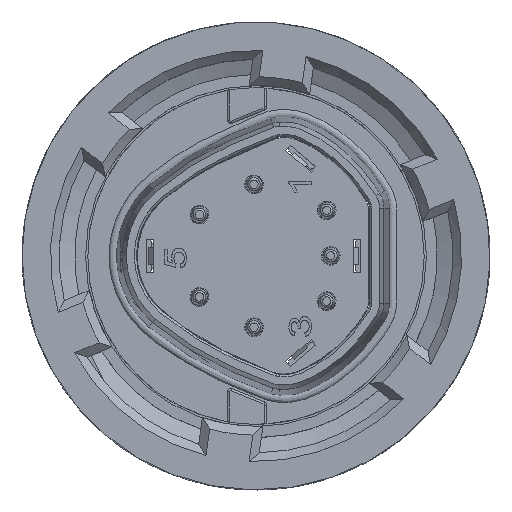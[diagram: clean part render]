
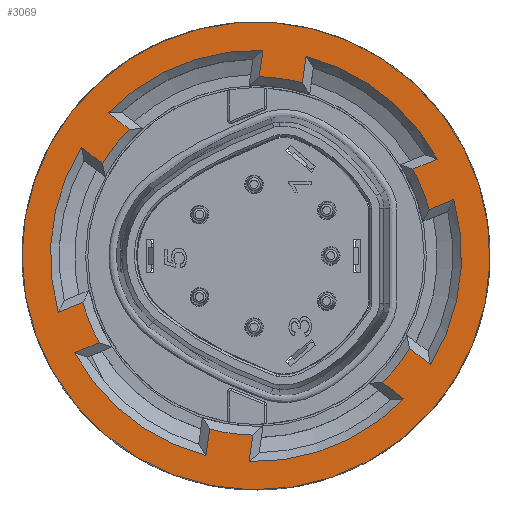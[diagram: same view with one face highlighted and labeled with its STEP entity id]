
A CAD part, top view. The second image highlights one B-rep face of the part: STEP entity #3069.
In plain terms, the highlighted planar face has unit normal (0, 0, 1).
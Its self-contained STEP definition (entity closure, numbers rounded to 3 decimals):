
#3069=ADVANCED_FACE('',(#3876,#3877),#3504,.F.);
#3504=PLANE('',#16271);
#3876=FACE_BOUND('',#4697,.T.);
#3877=FACE_BOUND('',#4698,.T.);
#4697=EDGE_LOOP('',(#8882,#8883,#8884,#8885,#8886,#8887,#8888,#8889,#8890,
#8891,#8892,#8893,#8894,#8895,#8896,#8897,#8898,#8899,#8900,#8901,#8902,
#8903,#8904,#8905));
#4698=EDGE_LOOP('',(#8906));
#5449=CIRCLE('',#16119,16.3);
#5451=CIRCLE('',#16122,16.3);
#5496=CIRCLE('',#16202,18.7);
#5539=CIRCLE('',#16260,21.28);
#5540=CIRCLE('',#16262,18.7);
#5541=CIRCLE('',#16263,18.7);
#5542=CIRCLE('',#16264,16.3);
#5543=CIRCLE('',#16265,18.7);
#5544=CIRCLE('',#16266,16.3);
#5545=CIRCLE('',#16267,18.7);
#5546=CIRCLE('',#16268,16.3);
#5547=CIRCLE('',#16269,18.7);
#5548=CIRCLE('',#16270,16.3);
#8882=ORIENTED_EDGE('',*,*,#12785,.T.);
#8883=ORIENTED_EDGE('',*,*,#12582,.T.);
#8884=ORIENTED_EDGE('',*,*,#12553,.T.);
#8885=ORIENTED_EDGE('',*,*,#12584,.T.);
#8886=ORIENTED_EDGE('',*,*,#12661,.T.);
#8887=ORIENTED_EDGE('',*,*,#12649,.T.);
#8888=ORIENTED_EDGE('',*,*,#12557,.T.);
#8889=ORIENTED_EDGE('',*,*,#12658,.T.);
#8890=ORIENTED_EDGE('',*,*,#12786,.T.);
#8891=ORIENTED_EDGE('',*,*,#12787,.T.);
#8892=ORIENTED_EDGE('',*,*,#12788,.T.);
#8893=ORIENTED_EDGE('',*,*,#12789,.T.);
#8894=ORIENTED_EDGE('',*,*,#12790,.T.);
#8895=ORIENTED_EDGE('',*,*,#12791,.T.);
#8896=ORIENTED_EDGE('',*,*,#12792,.T.);
#8897=ORIENTED_EDGE('',*,*,#12793,.T.);
#8898=ORIENTED_EDGE('',*,*,#12794,.T.);
#8899=ORIENTED_EDGE('',*,*,#12795,.T.);
#8900=ORIENTED_EDGE('',*,*,#12796,.T.);
#8901=ORIENTED_EDGE('',*,*,#12797,.T.);
#8902=ORIENTED_EDGE('',*,*,#12798,.T.);
#8903=ORIENTED_EDGE('',*,*,#12799,.T.);
#8904=ORIENTED_EDGE('',*,*,#12800,.T.);
#8905=ORIENTED_EDGE('',*,*,#12801,.T.);
#8906=ORIENTED_EDGE('',*,*,#12784,.T.);
#10708=VERTEX_POINT('',#27051);
#10710=VERTEX_POINT('',#27058);
#10712=VERTEX_POINT('',#27066);
#10714=VERTEX_POINT('',#27073);
#10734=VERTEX_POINT('',#27150);
#10735=VERTEX_POINT('',#27157);
#10781=VERTEX_POINT('',#27355);
#10788=VERTEX_POINT('',#27387);
#10897=VERTEX_POINT('',#27780);
#10898=VERTEX_POINT('',#27783);
#10899=VERTEX_POINT('',#27785);
#10900=VERTEX_POINT('',#27787);
#10901=VERTEX_POINT('',#27789);
#10902=VERTEX_POINT('',#27791);
#10903=VERTEX_POINT('',#27793);
#10904=VERTEX_POINT('',#27795);
#10905=VERTEX_POINT('',#27797);
#10906=VERTEX_POINT('',#27799);
#10907=VERTEX_POINT('',#27801);
#10908=VERTEX_POINT('',#27803);
#10909=VERTEX_POINT('',#27805);
#10910=VERTEX_POINT('',#27807);
#10911=VERTEX_POINT('',#27809);
#10912=VERTEX_POINT('',#27811);
#10913=VERTEX_POINT('',#27813);
#12553=EDGE_CURVE('',#10708,#10710,#5449,.T.);
#12557=EDGE_CURVE('',#10712,#10714,#5451,.T.);
#12582=EDGE_CURVE('',#10734,#10708,#13805,.T.);
#12584=EDGE_CURVE('',#10710,#10735,#13806,.T.);
#12649=EDGE_CURVE('',#10781,#10712,#13827,.T.);
#12658=EDGE_CURVE('',#10714,#10788,#13830,.T.);
#12661=EDGE_CURVE('',#10735,#10781,#5496,.T.);
#12784=EDGE_CURVE('',#10897,#10897,#5539,.T.);
#12785=EDGE_CURVE('',#10898,#10734,#5540,.T.);
#12786=EDGE_CURVE('',#10788,#10899,#5541,.T.);
#12787=EDGE_CURVE('',#10899,#10900,#13885,.T.);
#12788=EDGE_CURVE('',#10900,#10901,#5542,.T.);
#12789=EDGE_CURVE('',#10901,#10902,#13886,.T.);
#12790=EDGE_CURVE('',#10902,#10903,#5543,.T.);
#12791=EDGE_CURVE('',#10903,#10904,#13887,.T.);
#12792=EDGE_CURVE('',#10904,#10905,#5544,.T.);
#12793=EDGE_CURVE('',#10905,#10906,#13888,.T.);
#12794=EDGE_CURVE('',#10906,#10907,#5545,.T.);
#12795=EDGE_CURVE('',#10907,#10908,#13889,.T.);
#12796=EDGE_CURVE('',#10908,#10909,#5546,.T.);
#12797=EDGE_CURVE('',#10909,#10910,#13890,.T.);
#12798=EDGE_CURVE('',#10910,#10911,#5547,.T.);
#12799=EDGE_CURVE('',#10911,#10912,#13891,.T.);
#12800=EDGE_CURVE('',#10912,#10913,#5548,.T.);
#12801=EDGE_CURVE('',#10913,#10898,#13892,.T.);
#13805=LINE('',#27149,#14770);
#13806=LINE('',#27156,#14771);
#13827=LINE('',#27354,#14792);
#13830=LINE('',#27386,#14795);
#13885=LINE('',#27786,#14850);
#13886=LINE('',#27790,#14851);
#13887=LINE('',#27794,#14852);
#13888=LINE('',#27798,#14853);
#13889=LINE('',#27802,#14854);
#13890=LINE('',#27806,#14855);
#13891=LINE('',#27810,#14856);
#13892=LINE('',#27814,#14857);
#14770=VECTOR('',#19528,1.);
#14771=VECTOR('',#19531,1.);
#14792=VECTOR('',#19654,1.);
#14795=VECTOR('',#19669,1.);
#14850=VECTOR('',#19850,1.);
#14851=VECTOR('',#19853,1.);
#14852=VECTOR('',#19856,1.);
#14853=VECTOR('',#19859,1.);
#14854=VECTOR('',#19862,1.);
#14855=VECTOR('',#19865,1.);
#14856=VECTOR('',#19868,1.);
#14857=VECTOR('',#19871,1.);
#16119=AXIS2_PLACEMENT_3D('',#27059,#19473,#19474);
#16122=AXIS2_PLACEMENT_3D('',#27074,#19479,#19480);
#16202=AXIS2_PLACEMENT_3D('',#27395,#19673,#19674);
#16260=AXIS2_PLACEMENT_3D('',#27779,#19842,#19843);
#16262=AXIS2_PLACEMENT_3D('',#27782,#19846,#19847);
#16263=AXIS2_PLACEMENT_3D('',#27784,#19848,#19849);
#16264=AXIS2_PLACEMENT_3D('',#27788,#19851,#19852);
#16265=AXIS2_PLACEMENT_3D('',#27792,#19854,#19855);
#16266=AXIS2_PLACEMENT_3D('',#27796,#19857,#19858);
#16267=AXIS2_PLACEMENT_3D('',#27800,#19860,#19861);
#16268=AXIS2_PLACEMENT_3D('',#27804,#19863,#19864);
#16269=AXIS2_PLACEMENT_3D('',#27808,#19866,#19867);
#16270=AXIS2_PLACEMENT_3D('',#27812,#19869,#19870);
#16271=AXIS2_PLACEMENT_3D('',#27815,#19872,#19873);
#19473=DIRECTION('',(0.,0.,-1.));
#19474=DIRECTION('',(-1.,0.,0.));
#19479=DIRECTION('',(0.,0.,-1.));
#19480=DIRECTION('',(-1.,0.,0.));
#19528=DIRECTION('',(0.927,0.375,0.));
#19531=DIRECTION('',(-0.927,-0.375,0.));
#19654=DIRECTION('',(0.788,-0.616,0.));
#19669=DIRECTION('',(-0.788,0.616,0.));
#19673=DIRECTION('',(0.,0.,-1.));
#19674=DIRECTION('',(-0.927,-0.375,0.));
#19842=DIRECTION('',(0.,0.,1.));
#19843=DIRECTION('',(-1.,0.,0.));
#19846=DIRECTION('',(0.,0.,-1.));
#19847=DIRECTION('',(-0.927,-0.375,0.));
#19848=DIRECTION('',(0.,0.,-1.));
#19849=DIRECTION('',(-0.927,-0.375,0.));
#19850=DIRECTION('',(-0.139,-0.99,0.));
#19851=DIRECTION('',(0.,0.,-1.));
#19852=DIRECTION('',(-1.,0.,0.));
#19853=DIRECTION('',(0.139,0.99,0.));
#19854=DIRECTION('',(0.,0.,-1.));
#19855=DIRECTION('',(-0.927,-0.375,0.));
#19856=DIRECTION('',(-0.927,-0.375,0.));
#19857=DIRECTION('',(0.,0.,-1.));
#19858=DIRECTION('',(-1.,0.,0.));
#19859=DIRECTION('',(0.927,0.375,0.));
#19860=DIRECTION('',(0.,0.,-1.));
#19861=DIRECTION('',(-0.927,-0.375,0.));
#19862=DIRECTION('',(-0.788,0.616,0.));
#19863=DIRECTION('',(0.,0.,-1.));
#19864=DIRECTION('',(-1.,0.,0.));
#19865=DIRECTION('',(0.788,-0.616,0.));
#19866=DIRECTION('',(0.,0.,-1.));
#19867=DIRECTION('',(-0.927,-0.375,0.));
#19868=DIRECTION('',(0.139,0.99,0.));
#19869=DIRECTION('',(0.,0.,-1.));
#19870=DIRECTION('',(-1.,0.,0.));
#19871=DIRECTION('',(-0.139,-0.99,0.));
#19872=DIRECTION('',(0.,0.,-1.));
#19873=DIRECTION('',(0.999,0.035,0.));
#27051=CARTESIAN_POINT('',(-14.259,-7.897,108.4));
#27058=CARTESIAN_POINT('',(-15.743,-4.225,108.4));
#27059=CARTESIAN_POINT('',(0.,0.,108.4));
#27066=CARTESIAN_POINT('',(-13.968,8.401,108.4));
#27073=CARTESIAN_POINT('',(-11.53,11.521,108.4));
#27074=CARTESIAN_POINT('',(0.,0.,108.4));
#27149=CARTESIAN_POINT('',(0.742,-1.836,108.4));
#27150=CARTESIAN_POINT('',(-16.499,-8.802,108.4));
#27156=CARTESIAN_POINT('',(-0.742,1.836,108.4));
#27157=CARTESIAN_POINT('',(-17.983,-5.13,108.4));
#27354=CARTESIAN_POINT('',(-1.219,-1.56,108.4));
#27355=CARTESIAN_POINT('',(-15.872,9.888,108.4));
#27386=CARTESIAN_POINT('',(1.219,1.56,108.4));
#27387=CARTESIAN_POINT('',(-13.434,13.008,108.4));
#27395=CARTESIAN_POINT('',(0.,0.,108.4));
#27779=CARTESIAN_POINT('',(0.,0.,108.4));
#27780=CARTESIAN_POINT('',(-21.28,0.,108.4));
#27782=CARTESIAN_POINT('',(0.,0.,108.4));
#27783=CARTESIAN_POINT('',(-4.549,-18.138,108.4));
#27784=CARTESIAN_POINT('',(0.,0.,108.4));
#27785=CARTESIAN_POINT('',(0.627,18.689,108.4));
#27786=CARTESIAN_POINT('',(-1.961,0.276,108.4));
#27787=CARTESIAN_POINT('',(0.291,16.297,108.4));
#27788=CARTESIAN_POINT('',(0.,0.,108.4));
#27789=CARTESIAN_POINT('',(4.212,15.746,108.4));
#27790=CARTESIAN_POINT('',(4.422,17.235,108.4));
#27791=CARTESIAN_POINT('',(4.549,18.138,108.4));
#27792=CARTESIAN_POINT('',(0.,0.,108.4));
#27793=CARTESIAN_POINT('',(16.499,8.802,108.4));
#27794=CARTESIAN_POINT('',(13.397,7.548,108.4));
#27795=CARTESIAN_POINT('',(14.259,7.897,108.4));
#27796=CARTESIAN_POINT('',(0.,0.,108.4));
#27797=CARTESIAN_POINT('',(15.743,4.225,108.4));
#27798=CARTESIAN_POINT('',(17.137,4.788,108.4));
#27799=CARTESIAN_POINT('',(17.983,5.13,108.4));
#27800=CARTESIAN_POINT('',(0.,0.,108.4));
#27801=CARTESIAN_POINT('',(15.872,-9.888,108.4));
#27802=CARTESIAN_POINT('',(13.235,-7.828,108.4));
#27803=CARTESIAN_POINT('',(13.968,-8.401,108.4));
#27804=CARTESIAN_POINT('',(0.,0.,108.4));
#27805=CARTESIAN_POINT('',(11.53,-11.521,108.4));
#27806=CARTESIAN_POINT('',(12.715,-12.447,108.4));
#27807=CARTESIAN_POINT('',(13.434,-13.008,108.4));
#27808=CARTESIAN_POINT('',(0.,0.,108.4));
#27809=CARTESIAN_POINT('',(-0.627,-18.689,108.4));
#27810=CARTESIAN_POINT('',(1.961,-0.276,108.4));
#27811=CARTESIAN_POINT('',(-0.291,-16.297,108.4));
#27812=CARTESIAN_POINT('',(0.,0.,108.4));
#27813=CARTESIAN_POINT('',(-4.212,-15.746,108.4));
#27814=CARTESIAN_POINT('',(-4.422,-17.235,108.4));
#27815=CARTESIAN_POINT('',(0.,0.,108.4));
